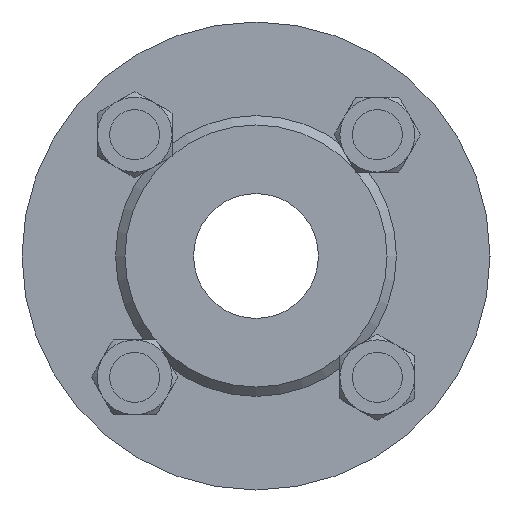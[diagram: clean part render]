
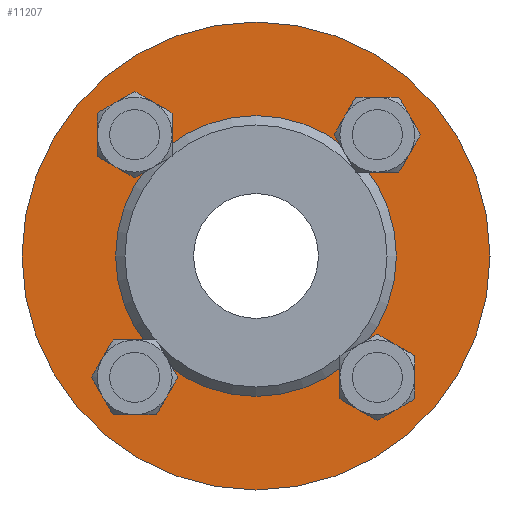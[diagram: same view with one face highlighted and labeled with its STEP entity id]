
A CAD part, left-side view. The second image highlights one B-rep face of the part: STEP entity #11207.
In plain terms, the highlighted planar face has unit normal (-1, 0, 0).
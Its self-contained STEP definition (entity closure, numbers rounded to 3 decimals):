
#201 = CARTESIAN_POINT ( 'NONE',  ( 3., 0., 75. ) ) ;
#331 = EDGE_CURVE ( 'NONE', #5744, #5744, #9428, .T. ) ;
#643 = DIRECTION ( 'NONE',  ( 1., 0., 0. ) ) ;
#717 = FACE_BOUND ( 'NONE', #8437, .T. ) ;
#751 = DIRECTION ( 'NONE',  ( -1., 0., 0. ) ) ;
#1312 = ORIENTED_EDGE ( 'NONE', *, *, #10523, .F. ) ;
#1436 = CARTESIAN_POINT ( 'NONE',  ( 3., -38.891, -38.891 ) ) ;
#1736 = FACE_BOUND ( 'NONE', #2979, .T. ) ;
#2001 = CARTESIAN_POINT ( 'NONE',  ( 3., 38.891, -38.891 ) ) ;
#2109 = AXIS2_PLACEMENT_3D ( 'NONE', #10639, #643, #13847 ) ;
#2191 = EDGE_LOOP ( 'NONE', ( #3264 ) ) ;
#2445 = AXIS2_PLACEMENT_3D ( 'NONE', #6034, #10490, #2825 ) ;
#2615 = VERTEX_POINT ( 'NONE', #6106 ) ;
#2765 = CIRCLE ( 'NONE', #5105, 8. ) ;
#2825 = DIRECTION ( 'NONE',  ( 0., 0., 1. ) ) ;
#2888 = CARTESIAN_POINT ( 'NONE',  ( 3., 38.891, -46.891 ) ) ;
#2974 = FACE_BOUND ( 'NONE', #6425, .T. ) ;
#2979 = EDGE_LOOP ( 'NONE', ( #5269 ) ) ;
#3116 = DIRECTION ( 'NONE',  ( 0., 0., 1. ) ) ;
#3220 = AXIS2_PLACEMENT_3D ( 'NONE', #1436, #10477, #5952 ) ;
#3264 = ORIENTED_EDGE ( 'NONE', *, *, #7908, .F. ) ;
#3964 = CARTESIAN_POINT ( 'NONE',  ( 3., -38.891, 38.891 ) ) ;
#4423 = EDGE_CURVE ( 'NONE', #5960, #5960, #6193, .T. ) ;
#5024 = FACE_BOUND ( 'NONE', #2191, .T. ) ;
#5077 = CIRCLE ( 'NONE', #13694, 45. ) ;
#5105 = AXIS2_PLACEMENT_3D ( 'NONE', #7684, #10971, #5428 ) ;
#5222 = VERTEX_POINT ( 'NONE', #13181 ) ;
#5269 = ORIENTED_EDGE ( 'NONE', *, *, #6511, .F. ) ;
#5428 = DIRECTION ( 'NONE',  ( 0., 0., -1. ) ) ;
#5744 = VERTEX_POINT ( 'NONE', #201 ) ;
#5940 = ORIENTED_EDGE ( 'NONE', *, *, #6682, .F. ) ;
#5952 = DIRECTION ( 'NONE',  ( 0., 0., -1. ) ) ;
#5960 = VERTEX_POINT ( 'NONE', #2888 ) ;
#6034 = CARTESIAN_POINT ( 'NONE',  ( 3., 0., 0. ) ) ;
#6106 = CARTESIAN_POINT ( 'NONE',  ( 3., -38.891, -46.891 ) ) ;
#6183 = PLANE ( 'NONE',  #2109 ) ;
#6193 = CIRCLE ( 'NONE', #12484, 8. ) ;
#6256 = FACE_OUTER_BOUND ( 'NONE', #11861, .T. ) ;
#6360 = DIRECTION ( 'NONE',  ( 0., 0., -1. ) ) ;
#6425 = EDGE_LOOP ( 'NONE', ( #1312 ) ) ;
#6469 = CIRCLE ( 'NONE', #3220, 8. ) ;
#6511 = EDGE_CURVE ( 'NONE', #9393, #9393, #5077, .T. ) ;
#6520 = DIRECTION ( 'NONE',  ( 0., 0., -1. ) ) ;
#6682 = EDGE_CURVE ( 'NONE', #2615, #2615, #6469, .T. ) ;
#7680 = AXIS2_PLACEMENT_3D ( 'NONE', #3964, #751, #6360 ) ;
#7684 = CARTESIAN_POINT ( 'NONE',  ( 3., 38.891, 38.891 ) ) ;
#7908 = EDGE_CURVE ( 'NONE', #12966, #12966, #2765, .T. ) ;
#8150 = CIRCLE ( 'NONE', #7680, 8. ) ;
#8437 = EDGE_LOOP ( 'NONE', ( #12997 ) ) ;
#8664 = DIRECTION ( 'NONE',  ( -1., 0., 0. ) ) ;
#9393 = VERTEX_POINT ( 'NONE', #11576 ) ;
#9428 = CIRCLE ( 'NONE', #2445, 75. ) ;
#9445 = ORIENTED_EDGE ( 'NONE', *, *, #331, .T. ) ;
#9473 = FACE_BOUND ( 'NONE', #10587, .T. ) ;
#9678 = CARTESIAN_POINT ( 'NONE',  ( 3., 0., 0. ) ) ;
#10477 = DIRECTION ( 'NONE',  ( -1., 0., 0. ) ) ;
#10490 = DIRECTION ( 'NONE',  ( -1., 0., 0. ) ) ;
#10523 = EDGE_CURVE ( 'NONE', #5222, #5222, #8150, .T. ) ;
#10587 = EDGE_LOOP ( 'NONE', ( #5940 ) ) ;
#10639 = CARTESIAN_POINT ( 'NONE',  ( 3., 45., 0. ) ) ;
#10971 = DIRECTION ( 'NONE',  ( -1., 0., 0. ) ) ;
#11207 = ADVANCED_FACE ( 'NONE', ( #2974, #9473, #717, #5024, #1736, #6256 ), #6183, .F. ) ;
#11576 = CARTESIAN_POINT ( 'NONE',  ( 3., 0., 45. ) ) ;
#11861 = EDGE_LOOP ( 'NONE', ( #9445 ) ) ;
#11922 = DIRECTION ( 'NONE',  ( -1., 0., 0. ) ) ;
#12484 = AXIS2_PLACEMENT_3D ( 'NONE', #2001, #11922, #6520 ) ;
#12966 = VERTEX_POINT ( 'NONE', #13039 ) ;
#12997 = ORIENTED_EDGE ( 'NONE', *, *, #4423, .F. ) ;
#13039 = CARTESIAN_POINT ( 'NONE',  ( 3., 38.891, 30.891 ) ) ;
#13181 = CARTESIAN_POINT ( 'NONE',  ( 3., -38.891, 30.891 ) ) ;
#13694 = AXIS2_PLACEMENT_3D ( 'NONE', #9678, #8664, #3116 ) ;
#13847 = DIRECTION ( 'NONE',  ( 0., 0., -1. ) ) ;
